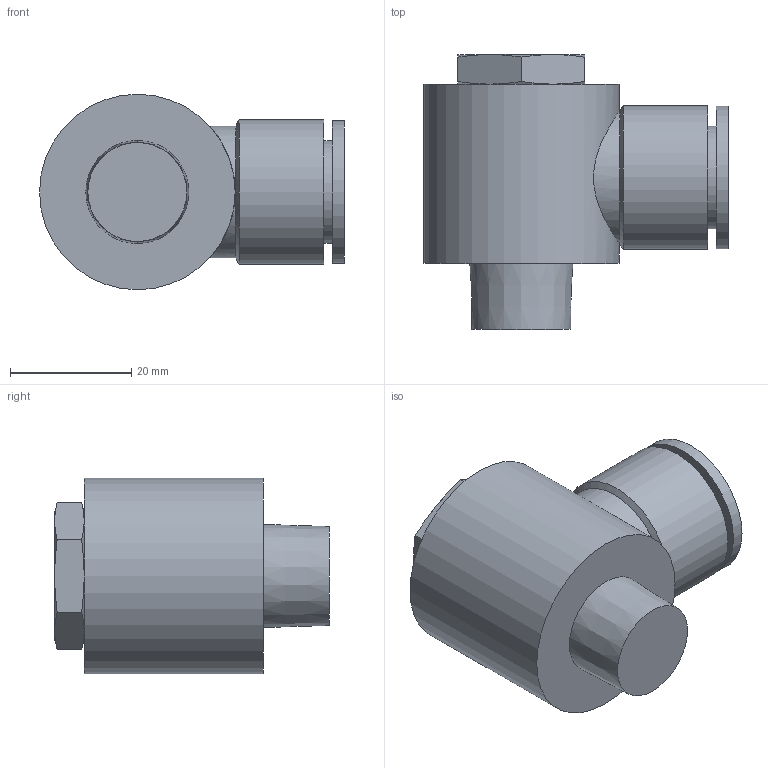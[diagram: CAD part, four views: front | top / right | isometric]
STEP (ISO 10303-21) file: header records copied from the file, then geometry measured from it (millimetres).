
FILE_DESCRIPTION(/* description */ ('STEP AP214'),/* implementation_level */ '2;1');
FILE_NAME(/* name */ 'KQ2V16-03AS',/* time_stamp */ '2024-10-24T13:58:16+02:00',/* author */ ('License CC BY-ND 4.0'),/* organization */ ('CADENAS'),/* preprocessor_version */ 'ST-DEVELOPER v19.3',/* originating_system */ 'PARTsolutions',/* authorisation */ ' ');
FILE_SCHEMA (('AUTOMOTIVE_DESIGN {1 0 10303 214 3 1 1}'));
Length unit declared in the file: millimetre
Products named in the file (1): KQ2V16-03AS
Bounding box: 50.35 x 45.4 x 32.3 mm (x, y, z)
Volume: 32405.8 mm3; surface area: 8605.8 mm2
Topology: 1 solids, 1 shells, 34 faces, 68 edges, 41 vertices
Faces by surface type: cone 14, plane 14, cylinder 6
Full cylindrical faces by diameter (mm): 16 x1, 16.95 x1, 21.8 x1, 23.6 x1, 23.8 x1, 32.3 x1
Entity records: 875 total; most frequent: CARTESIAN_POINT 223, DIRECTION 126, ORIENTED_EDGE 112, AXIS2_PLACEMENT_3D 60, EDGE_CURVE 56, EDGE_LOOP 48, FACE_BOUND 48, VERTEX_POINT 38
